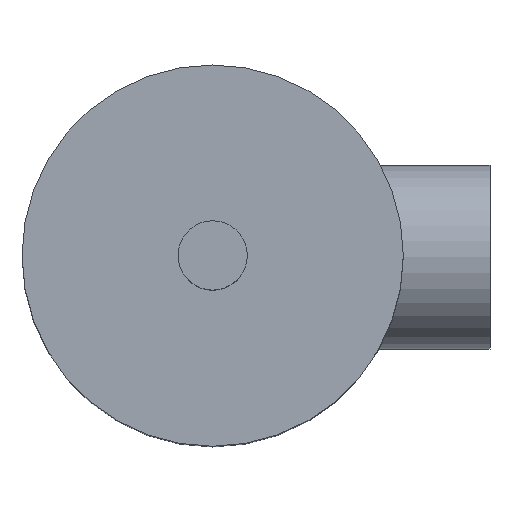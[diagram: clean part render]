
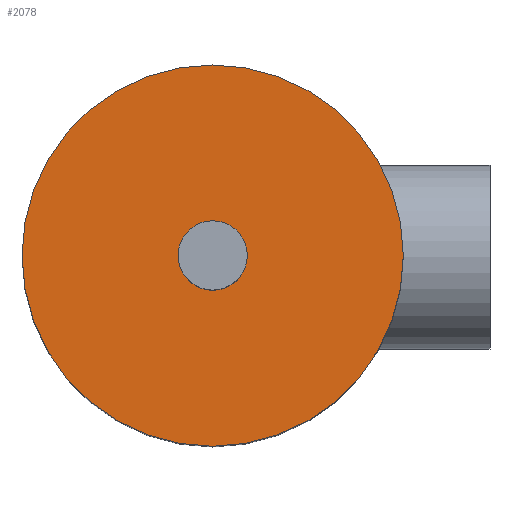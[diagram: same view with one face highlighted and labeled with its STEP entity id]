
A CAD part, top view. The second image highlights one B-rep face of the part: STEP entity #2078.
In plain terms, the highlighted planar face has unit normal (0, 0, 1).
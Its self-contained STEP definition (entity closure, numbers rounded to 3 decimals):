
#1994 = CYLINDRICAL_SURFACE('',#1995,55.);
#1995 = AXIS2_PLACEMENT_3D('',#1996,#1997,#1998);
#1996 = CARTESIAN_POINT('',(0.,0.,157.));
#1997 = DIRECTION('',(0.,0.,1.));
#1998 = DIRECTION('',(1.,0.,0.));
#2027 = EDGE_CURVE('',#2028,#2028,#2030,.T.);
#2028 = VERTEX_POINT('',#2029);
#2029 = CARTESIAN_POINT('',(55.,0.,282.6));
#2030 = SURFACE_CURVE('',#2031,(#2036,#2043),.PCURVE_S1.);
#2031 = CIRCLE('',#2032,55.);
#2032 = AXIS2_PLACEMENT_3D('',#2033,#2034,#2035);
#2033 = CARTESIAN_POINT('',(0.,0.,282.6));
#2034 = DIRECTION('',(0.,0.,1.));
#2035 = DIRECTION('',(1.,0.,0.));
#2036 = PCURVE('',#1994,#2037);
#2037 = DEFINITIONAL_REPRESENTATION('',(#2038),#2042);
#2038 = LINE('',#2039,#2040);
#2039 = CARTESIAN_POINT('',(0.,125.6));
#2040 = VECTOR('',#2041,1.);
#2041 = DIRECTION('',(1.,0.));
#2042 = ( GEOMETRIC_REPRESENTATION_CONTEXT(2) 
PARAMETRIC_REPRESENTATION_CONTEXT() REPRESENTATION_CONTEXT('2D SPACE',''
  ) );
#2043 = PCURVE('',#2044,#2049);
#2044 = PLANE('',#2045);
#2045 = AXIS2_PLACEMENT_3D('',#2046,#2047,#2048);
#2046 = CARTESIAN_POINT('',(0.,0.,282.6));
#2047 = DIRECTION('',(0.,0.,1.));
#2048 = DIRECTION('',(1.,0.,0.));
#2049 = DEFINITIONAL_REPRESENTATION('',(#2050),#2054);
#2050 = CIRCLE('',#2051,55.);
#2051 = AXIS2_PLACEMENT_2D('',#2052,#2053);
#2052 = CARTESIAN_POINT('',(0.,0.));
#2053 = DIRECTION('',(1.,0.));
#2054 = ( GEOMETRIC_REPRESENTATION_CONTEXT(2) 
PARAMETRIC_REPRESENTATION_CONTEXT() REPRESENTATION_CONTEXT('2D SPACE',''
  ) );
#2078 = ADVANCED_FACE('',(#2079,#2082),#2044,.T.);
#2079 = FACE_BOUND('',#2080,.T.);
#2080 = EDGE_LOOP('',(#2081));
#2081 = ORIENTED_EDGE('',*,*,#2027,.T.);
#2082 = FACE_BOUND('',#2083,.T.);
#2083 = EDGE_LOOP('',(#2084));
#2084 = ORIENTED_EDGE('',*,*,#2085,.F.);
#2085 = EDGE_CURVE('',#2086,#2086,#2088,.T.);
#2086 = VERTEX_POINT('',#2087);
#2087 = CARTESIAN_POINT('',(10.,0.,282.6));
#2088 = SURFACE_CURVE('',#2089,(#2094,#2101),.PCURVE_S1.);
#2089 = CIRCLE('',#2090,10.);
#2090 = AXIS2_PLACEMENT_3D('',#2091,#2092,#2093);
#2091 = CARTESIAN_POINT('',(0.,0.,282.6));
#2092 = DIRECTION('',(0.,0.,1.));
#2093 = DIRECTION('',(1.,0.,-0.));
#2094 = PCURVE('',#2044,#2095);
#2095 = DEFINITIONAL_REPRESENTATION('',(#2096),#2100);
#2096 = CIRCLE('',#2097,10.);
#2097 = AXIS2_PLACEMENT_2D('',#2098,#2099);
#2098 = CARTESIAN_POINT('',(0.,0.));
#2099 = DIRECTION('',(1.,0.));
#2100 = ( GEOMETRIC_REPRESENTATION_CONTEXT(2) 
PARAMETRIC_REPRESENTATION_CONTEXT() REPRESENTATION_CONTEXT('2D SPACE',''
  ) );
#2101 = PCURVE('',#2102,#2107);
#2102 = CYLINDRICAL_SURFACE('',#2103,10.);
#2103 = AXIS2_PLACEMENT_3D('',#2104,#2105,#2106);
#2104 = CARTESIAN_POINT('',(0.,0.,45.));
#2105 = DIRECTION('',(0.,0.,1.));
#2106 = DIRECTION('',(1.,0.,0.));
#2107 = DEFINITIONAL_REPRESENTATION('',(#2108),#2112);
#2108 = LINE('',#2109,#2110);
#2109 = CARTESIAN_POINT('',(0.,237.6));
#2110 = VECTOR('',#2111,1.);
#2111 = DIRECTION('',(1.,0.));
#2112 = ( GEOMETRIC_REPRESENTATION_CONTEXT(2) 
PARAMETRIC_REPRESENTATION_CONTEXT() REPRESENTATION_CONTEXT('2D SPACE',''
  ) );
